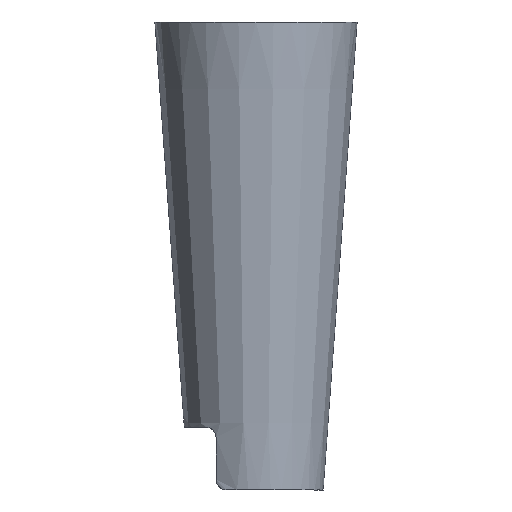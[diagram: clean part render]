
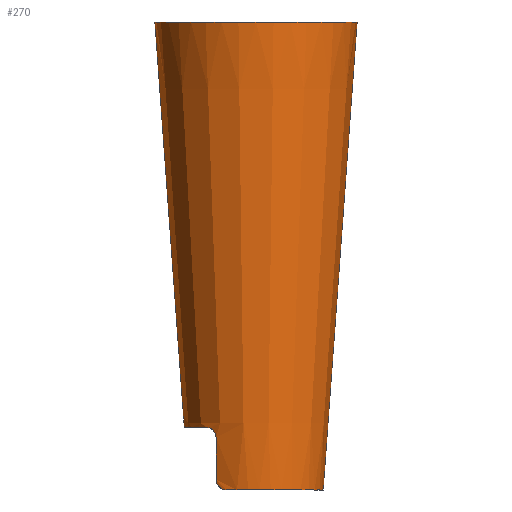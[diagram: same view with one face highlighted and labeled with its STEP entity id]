
A CAD part, top view. The second image highlights one B-rep face of the part: STEP entity #270.
In plain terms, the highlighted conical face has half-angle 4.143 degrees and reference radius 24.892 mm.
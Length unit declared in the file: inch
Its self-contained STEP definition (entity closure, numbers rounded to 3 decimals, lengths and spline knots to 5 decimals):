
#55=CARTESIAN_POINT('',(-0.84951,1.5,0.125));
#56=VERTEX_POINT('',#55);
#57=CARTESIAN_POINT('',(-0.86772,1.625,0.0));
#58=VERTEX_POINT('',#57);
#59=CARTESIAN_POINT('',(-0.84951,1.5,0.125));
#60=CARTESIAN_POINT('',(-0.84958,1.5,0.12456));
#61=CARTESIAN_POINT('',(-0.84964,1.5,0.12413));
#62=CARTESIAN_POINT('',(-0.85198,1.50017,0.10817));
#63=CARTESIAN_POINT('',(-0.85415,1.50342,0.09158));
#64=CARTESIAN_POINT('',(-0.85781,1.51633,0.06105));
#65=CARTESIAN_POINT('',(-0.85933,1.52599,0.0471));
#66=CARTESIAN_POINT('',(-0.86185,1.54819,0.02516));
#67=CARTESIAN_POINT('',(-0.86305,1.56218,0.01567));
#68=CARTESIAN_POINT('',(-0.8654,1.5928,0.00309));
#69=CARTESIAN_POINT('',(-0.86659,1.60943,0.));
#70=CARTESIAN_POINT('',(-0.86772,1.625,0.));
#71=B_SPLINE_CURVE_WITH_KNOTS('',3,(#59,#60,#61,#62,#63,#64,#65,#66,#67,#68,#69,#70),.UNSPECIFIED.,.F.,.U.,(4,2,2,2,2,4),(1.4489,1.45224,1.57183,1.69142,1.81041,1.9294),.UNSPECIFIED.);
#72=EDGE_CURVE('',#56,#58,#71,.T.);
#114=CARTESIAN_POINT('',(-1.21,6.35,0.0));
#115=VERTEX_POINT('',#114);
#116=CARTESIAN_POINT('',(-1.21,6.35,0.0));
#117=DIRECTION('',(0.072,-0.997,0.0));
#118=VECTOR('',#117,4.73738);
#119=LINE('',#116,#118);
#120=EDGE_CURVE('',#115,#58,#119,.T.);
#179=CARTESIAN_POINT('',(0.0,3.175,0.0));
#180=DIRECTION('',(0.0,1.0,0.0));
#181=DIRECTION('',(-1.0,0.0,0.0));
#182=AXIS2_PLACEMENT_3D('',#179,#180,#181);
#183=CONICAL_SURFACE('',#182,0.98,4.143);
#184=ORIENTED_EDGE('',*,*,#72,.F.);
#185=CARTESIAN_POINT('',(-0.60348,1.5,0.61083));
#186=VERTEX_POINT('',#185);
#187=CARTESIAN_POINT('',(0.0,1.5,0.0));
#188=DIRECTION('',(0.0,1.0,0.0));
#189=DIRECTION('',(-1.0,0.0,0.0));
#190=AXIS2_PLACEMENT_3D('',#187,#188,#189);
#191=CIRCLE('',#190,0.85866);
#192=EDGE_CURVE('',#56,#186,#191,.T.);
#193=ORIENTED_EDGE('',*,*,#192,.T.);
#194=CARTESIAN_POINT('',(-0.47848,1.375,0.70206));
#195=VERTEX_POINT('',#194);
#196=CARTESIAN_POINT('',(-0.47848,1.375,0.70206));
#197=CARTESIAN_POINT('',(-0.47848,1.37671,0.70221));
#198=CARTESIAN_POINT('',(-0.47851,1.3784,0.70233));
#199=CARTESIAN_POINT('',(-0.47925,1.39656,0.70342));
#200=CARTESIAN_POINT('',(-0.48345,1.41375,0.70211));
#201=CARTESIAN_POINT('',(-0.49801,1.44418,0.69457));
#202=CARTESIAN_POINT('',(-0.50835,1.45743,0.6883));
#203=CARTESIAN_POINT('',(-0.53247,1.47941,0.67192));
#204=CARTESIAN_POINT('',(-0.54816,1.48833,0.66015));
#205=CARTESIAN_POINT('',(-0.5775,1.49809,0.63551));
#206=CARTESIAN_POINT('',(-0.59109,1.5,0.62307));
#207=CARTESIAN_POINT('',(-0.60348,1.5,0.61083));
#208=B_SPLINE_CURVE_WITH_KNOTS('',3,(#196,#197,#198,#199,#200,#201,#202,#203,#204,#205,#206,#207),.UNSPECIFIED.,.F.,.U.,(4,2,2,2,2,4),(1.17056,1.18347,1.30927,1.43508,1.58755,1.7172),.UNSPECIFIED.);
#209=EDGE_CURVE('',#195,#186,#208,.T.);
#210=ORIENTED_EDGE('',*,*,#209,.F.);
#211=CARTESIAN_POINT('',(-0.47848,0.875,0.65776));
#212=VERTEX_POINT('',#211);
#213=CARTESIAN_POINT('',(-0.47848,1.375,0.70206));
#214=CARTESIAN_POINT('',(-0.47848,1.11686,0.67943));
#215=CARTESIAN_POINT('',(-0.47848,0.875,0.65776));
#223=(BOUNDED_CURVE()B_SPLINE_CURVE(2,(#213,#214,#215),.UNSPECIFIED.,.F.,.U.)B_SPLINE_CURVE_WITH_KNOTS((3,3),(0.30603,1.58044),.UNSPECIFIED.)CURVE()GEOMETRIC_REPRESENTATION_ITEM()RATIONAL_B_SPLINE_CURVE((1.,1.001,1.))REPRESENTATION_ITEM(''));
#224=EDGE_CURVE('',#195,#212,#223,.T.);
#225=ORIENTED_EDGE('',*,*,#224,.T.);
#226=CARTESIAN_POINT('',(-0.35348,0.75,0.7225));
#227=VERTEX_POINT('',#226);
#228=CARTESIAN_POINT('',(-0.35348,0.75,0.7225));
#229=CARTESIAN_POINT('',(-0.36845,0.75,0.71517));
#230=CARTESIAN_POINT('',(-0.38414,0.75281,0.7071));
#231=CARTESIAN_POINT('',(-0.41471,0.76469,0.69065));
#232=CARTESIAN_POINT('',(-0.4294,0.77432,0.68234));
#233=CARTESIAN_POINT('',(-0.45145,0.79606,0.66982));
#234=CARTESIAN_POINT('',(-0.46083,0.809,0.66448));
#235=CARTESIAN_POINT('',(-0.47397,0.83808,0.65777));
#236=CARTESIAN_POINT('',(-0.47771,0.85425,0.65647));
#237=CARTESIAN_POINT('',(-0.47844,0.87144,0.65747));
#238=CARTESIAN_POINT('',(-0.47848,0.87322,0.65761));
#239=CARTESIAN_POINT('',(-0.47848,0.875,0.65776));
#240=B_SPLINE_CURVE_WITH_KNOTS('',3,(#228,#229,#230,#231,#232,#233,#234,#235,#236,#237,#238,#239),.UNSPECIFIED.,.F.,.U.,(4,2,2,2,2,4),(0.50831,0.6339,0.77055,0.8884,1.00625,1.01976),.UNSPECIFIED.);
#241=EDGE_CURVE('',#227,#212,#240,.T.);
#242=ORIENTED_EDGE('',*,*,#241,.F.);
#243=CARTESIAN_POINT('',(0.80433,0.75,0.0));
#244=VERTEX_POINT('',#243);
#245=CARTESIAN_POINT('',(0.0,0.75,0.0));
#246=DIRECTION('',(0.0,1.0,0.0));
#247=DIRECTION('',(-1.0,0.0,0.0));
#248=AXIS2_PLACEMENT_3D('',#245,#246,#247);
#249=CIRCLE('',#248,0.80433);
#250=EDGE_CURVE('',#227,#244,#249,.T.);
#251=ORIENTED_EDGE('',*,*,#250,.T.);
#252=CARTESIAN_POINT('',(1.21,6.35,0.0));
#253=VERTEX_POINT('',#252);
#254=CARTESIAN_POINT('',(0.80433,0.75,0.0));
#255=DIRECTION('',(0.072,0.997,0.0));
#256=VECTOR('',#255,5.61467);
#257=LINE('',#254,#256);
#258=EDGE_CURVE('',#244,#253,#257,.T.);
#259=ORIENTED_EDGE('',*,*,#258,.T.);
#260=CARTESIAN_POINT('',(0.0,6.35,0.0));
#261=DIRECTION('',(0.0,1.0,0.0));
#262=DIRECTION('',(-1.0,0.0,0.0));
#263=AXIS2_PLACEMENT_3D('',#260,#261,#262);
#264=CIRCLE('',#263,1.21);
#265=EDGE_CURVE('',#115,#253,#264,.T.);
#266=ORIENTED_EDGE('',*,*,#265,.F.);
#267=ORIENTED_EDGE('',*,*,#120,.T.);
#268=EDGE_LOOP('',(#184,#193,#210,#225,#242,#251,#259,#266,#267));
#269=FACE_OUTER_BOUND('',#268,.T.);
#270=ADVANCED_FACE('',(#269),#183,.T.);
